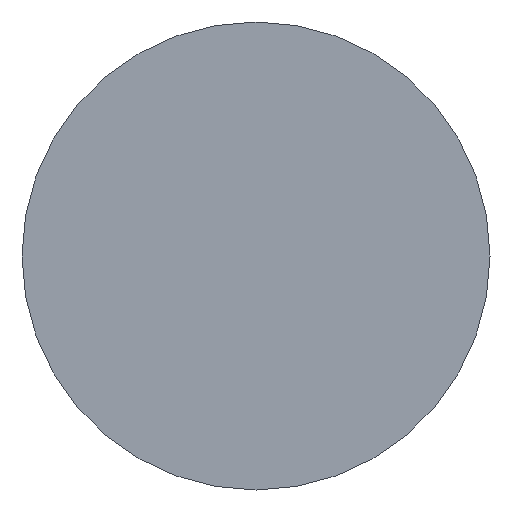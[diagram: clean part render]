
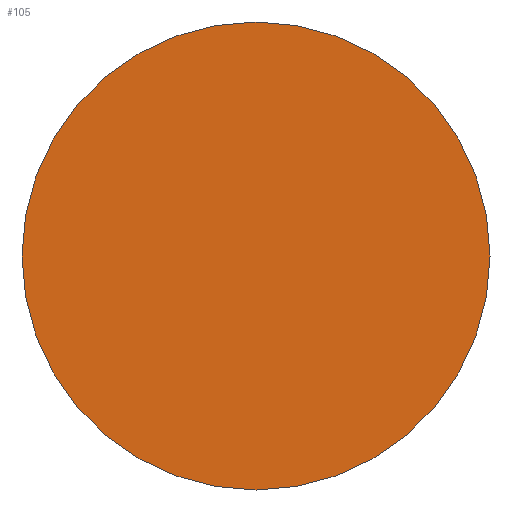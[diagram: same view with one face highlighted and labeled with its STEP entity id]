
A CAD part, front view. The second image highlights one B-rep face of the part: STEP entity #105.
In plain terms, the highlighted planar face has unit normal (0, -1, 0).
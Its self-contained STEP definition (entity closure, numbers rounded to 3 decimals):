
#21 = EDGE_CURVE('',#22,#22,#24,.T.);
#22 = VERTEX_POINT('',#23);
#23 = CARTESIAN_POINT('',(-19.566,-21.451,-16.5));
#24 = SURFACE_CURVE('',#25,(#30,#42),.PCURVE_S1.);
#25 = CIRCLE('',#26,16.5);
#26 = AXIS2_PLACEMENT_3D('',#27,#28,#29);
#27 = CARTESIAN_POINT('',(-19.566,-21.451,0.));
#28 = DIRECTION('',(0.,-1.,0.));
#29 = DIRECTION('',(0.,-0.,-1.));
#30 = PCURVE('',#31,#36);
#31 = CYLINDRICAL_SURFACE('',#32,16.5);
#32 = AXIS2_PLACEMENT_3D('',#33,#34,#35);
#33 = CARTESIAN_POINT('',(-19.566,-18.451,0.));
#34 = DIRECTION('',(0.,-1.,0.));
#35 = DIRECTION('',(0.,-0.,-1.));
#36 = DEFINITIONAL_REPRESENTATION('',(#37),#41);
#37 = LINE('',#38,#39);
#38 = CARTESIAN_POINT('',(0.,3.));
#39 = VECTOR('',#40,1.);
#40 = DIRECTION('',(1.,0.));
#41 = ( GEOMETRIC_REPRESENTATION_CONTEXT(2) 
PARAMETRIC_REPRESENTATION_CONTEXT() REPRESENTATION_CONTEXT('2D SPACE',''
  ) );
#42 = PCURVE('',#43,#48);
#43 = PLANE('',#44);
#44 = AXIS2_PLACEMENT_3D('',#45,#46,#47);
#45 = CARTESIAN_POINT('',(-19.566,-21.451,0.));
#46 = DIRECTION('',(0.,-1.,0.));
#47 = DIRECTION('',(0.,-0.,-1.));
#48 = DEFINITIONAL_REPRESENTATION('',(#49),#53);
#49 = CIRCLE('',#50,16.5);
#50 = AXIS2_PLACEMENT_2D('',#51,#52);
#51 = CARTESIAN_POINT('',(0.,0.));
#52 = DIRECTION('',(1.,0.));
#53 = ( GEOMETRIC_REPRESENTATION_CONTEXT(2) 
PARAMETRIC_REPRESENTATION_CONTEXT() REPRESENTATION_CONTEXT('2D SPACE',''
  ) );
#105 = ADVANCED_FACE('',(#106),#43,.T.);
#106 = FACE_BOUND('',#107,.T.);
#107 = EDGE_LOOP('',(#108));
#108 = ORIENTED_EDGE('',*,*,#21,.T.);
